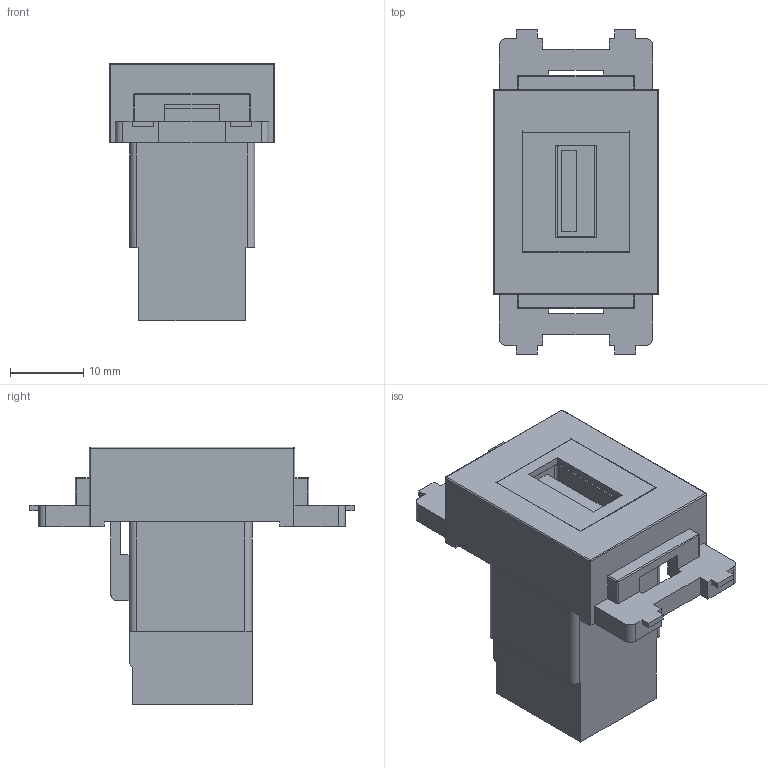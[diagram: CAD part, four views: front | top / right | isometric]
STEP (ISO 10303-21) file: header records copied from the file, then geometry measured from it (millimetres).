
FILE_DESCRIPTION(('FreeCAD Model'),'2;1');
FILE_NAME('Open CASCADE Shape Model','2026-05-12T10:06:48',(''),(''), 'Open CASCADE STEP processor 7.8','FreeCAD','Unknown');
FILE_SCHEMA(('AUTOMOTIVE_DESIGN { 1 0 10303 214 1 1 1 1 }'));
Length unit declared in the file: millimetre
Products named in the file (3): CC_USBA_XX_KV; SY-NWT-KV-xx; 210USB06N2xx
Assembly tree (2 placements, depth 2):
  CC_USBA_XX_KV
    SY-NWT-KV-xx
    210USB06N2xx
Bounding box: 22.65 x 44.3 x 35.2 mm (x, y, z)
Volume: 12204 mm3; surface area: 8705.1 mm2
Topology: 2 solids, 2 shells, 218 faces, 601 edges, 392 vertices
Faces by surface type: bspline 218
Entity records: 9404 total; most frequent: CARTESIAN_POINT 5681, ORIENTED_EDGE 1202, EDGE_CURVE 601, B_SPLINE_CURVE_WITH_KNOTS 601, VERTEX_POINT 392, FACE_BOUND 229, EDGE_LOOP 229, ADVANCED_FACE 218
